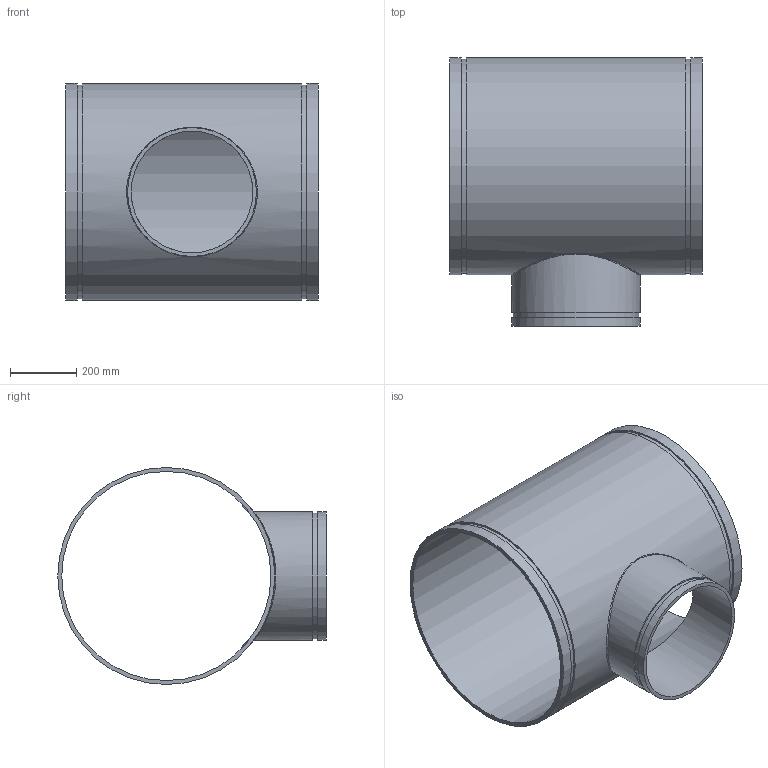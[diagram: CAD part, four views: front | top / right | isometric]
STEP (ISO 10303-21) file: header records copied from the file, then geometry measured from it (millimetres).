
FILE_DESCRIPTION(/* description */ ('VIC REDUCING TEE No 25-C','CAx-IF Rec.Pracs.---Representation and Presentation of Product Manufacturing Information (PMI)---4.0---2014-10-13'),/* implementation_level */ '2;1');
FILE_NAME(/* name */ 'C:\Users\Vjadhav\AppData\Roaming\Autodesk\ApplicationPlugins\Back Up\Victaulic_AWWA_Tee Reducing_No 25-C (DRG)\Victaulic_AWWA_Tee Reducing_No 25-C (DRG)_24.0x14.0 (600x350).stp',/* time_stamp */ '2020-08-18T18:18:59+06:00',/* author */ ('CORINNE GRAY'),/* organization */ ('Victaulic'),/* preprocessor_version */ 'ST-DEVELOPER v17.2',/* originating_system */ 'Autodesk Inventor 2019',/* authorisation */ '');
FILE_SCHEMA (('AP242_MANAGED_MODEL_BASED_3D_ENGINEERING_MIM_LF { 1 0 10303 442 1 1 4 }'));
Length unit declared in the file: inch
Products named in the file (1): 25C-24.0x14.0
Bounding box: 762 x 810.26 x 655.32 mm (x, y, z)
Volume: 18993603.1 mm3; surface area: 3406985.5 mm2
Topology: 1 solids, 1 shells, 20 faces, 44 edges, 33 vertices
Faces by surface type: cylinder 10, plane 9, bspline 1
Full cylindrical faces by diameter (mm): 367.284 x1, 380.213 x1, 388.62 x2, 631.444 x1, 645.312 x2, 655.32 x3
Entity records: 1105 total; most frequent: CARTESIAN_POINT 481, DIRECTION 135, ORIENTED_EDGE 90, AXIS2_PLACEMENT_3D 62, EDGE_CURVE 45, VERTEX_POINT 34, EDGE_LOOP 31, CIRCLE 29
